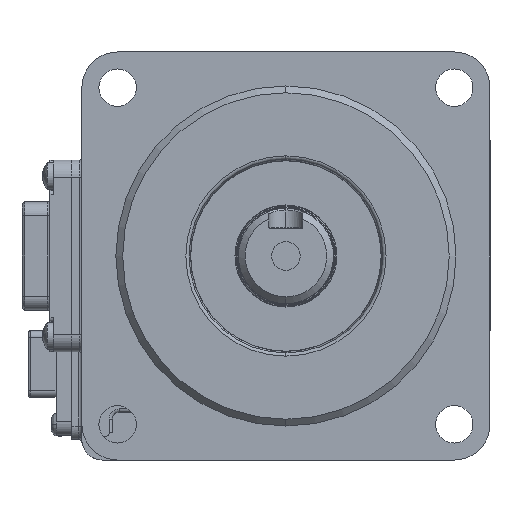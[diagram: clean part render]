
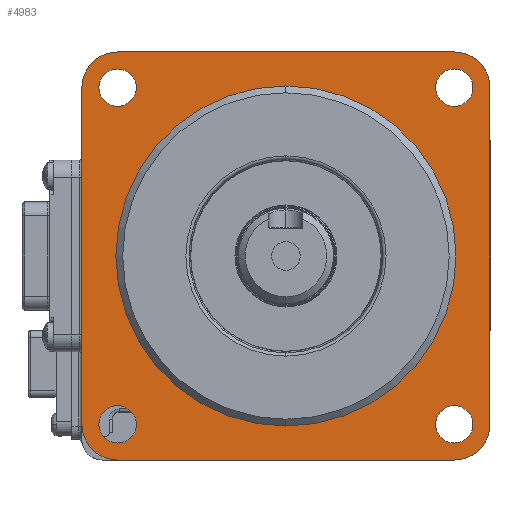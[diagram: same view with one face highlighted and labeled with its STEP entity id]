
A CAD part, left-side view. The second image highlights one B-rep face of the part: STEP entity #4983.
In plain terms, the highlighted planar face has unit normal (-1, 0, 0).
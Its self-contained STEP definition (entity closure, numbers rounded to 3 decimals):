
#1535 = EDGE_CURVE('',#1536,#1538,#1540,.T.);
#1536 = VERTEX_POINT('',#1537);
#1537 = CARTESIAN_POINT('',(-42.062,8.035,115.4));
#1538 = VERTEX_POINT('',#1539);
#1539 = CARTESIAN_POINT('',(-42.062,8.035,65.4));
#1540 = CIRCLE('',#1541,25.);
#1541 = AXIS2_PLACEMENT_3D('',#1542,#1543,#1544);
#1542 = CARTESIAN_POINT('',(-42.062,8.035,90.4));
#1543 = DIRECTION('',(-1.,0.,0.));
#1544 = DIRECTION('',(0.,0.,1.));
#1570 = VERTEX_POINT('',#1571);
#1571 = CARTESIAN_POINT('',(-42.062,-16.714,
    117.899));
#1577 = EDGE_CURVE('',#1578,#1570,#1580,.T.);
#1578 = VERTEX_POINT('',#1579);
#1579 = CARTESIAN_POINT('',(-42.062,-16.714,
    112.399));
#1580 = CIRCLE('',#1581,2.75);
#1581 = AXIS2_PLACEMENT_3D('',#1582,#1583,#1584);
#1582 = CARTESIAN_POINT('',(-42.062,-16.714,
    115.149));
#1583 = DIRECTION('',(-1.,0.,0.));
#1584 = DIRECTION('',(0.,1.,0.));
#1612 = VERTEX_POINT('',#1613);
#1613 = CARTESIAN_POINT('',(-42.062,32.783,
    68.401));
#1619 = EDGE_CURVE('',#1620,#1612,#1622,.T.);
#1620 = VERTEX_POINT('',#1621);
#1621 = CARTESIAN_POINT('',(-42.062,32.783,
    62.901));
#1622 = CIRCLE('',#1623,2.75);
#1623 = AXIS2_PLACEMENT_3D('',#1624,#1625,#1626);
#1624 = CARTESIAN_POINT('',(-42.062,32.783,
    65.651));
#1625 = DIRECTION('',(-1.,0.,0.));
#1626 = DIRECTION('',(-0.,-1.,0.));
#1654 = VERTEX_POINT('',#1655);
#1655 = CARTESIAN_POINT('',(-42.062,32.783,
    117.899));
#1661 = EDGE_CURVE('',#1662,#1654,#1664,.T.);
#1662 = VERTEX_POINT('',#1663);
#1663 = CARTESIAN_POINT('',(-42.062,32.783,
    112.399));
#1664 = CIRCLE('',#1665,2.75);
#1665 = AXIS2_PLACEMENT_3D('',#1666,#1667,#1668);
#1666 = CARTESIAN_POINT('',(-42.062,32.783,
    115.149));
#1667 = DIRECTION('',(-1.,0.,0.));
#1668 = DIRECTION('',(0.,0.,-1.));
#1696 = VERTEX_POINT('',#1697);
#1697 = CARTESIAN_POINT('',(-42.062,-16.714,
    68.401));
#1703 = EDGE_CURVE('',#1704,#1696,#1706,.T.);
#1704 = VERTEX_POINT('',#1705);
#1705 = CARTESIAN_POINT('',(-42.062,-16.714,
    62.901));
#1706 = CIRCLE('',#1707,2.75);
#1707 = AXIS2_PLACEMENT_3D('',#1708,#1709,#1710);
#1708 = CARTESIAN_POINT('',(-42.062,-16.714,
    65.651));
#1709 = DIRECTION('',(-1.,0.,0.));
#1710 = DIRECTION('',(0.,0.,1.));
#2136 = EDGE_CURVE('',#1696,#1704,#2137,.T.);
#2137 = CIRCLE('',#2138,2.75);
#2138 = AXIS2_PLACEMENT_3D('',#2139,#2140,#2141);
#2139 = CARTESIAN_POINT('',(-42.062,-16.714,
    65.651));
#2140 = DIRECTION('',(-1.,0.,0.));
#2141 = DIRECTION('',(0.,0.,1.));
#2370 = VERTEX_POINT('',#2371);
#2371 = CARTESIAN_POINT('',(-42.062,32.785,120.4));
#2379 = VERTEX_POINT('',#2380);
#2380 = CARTESIAN_POINT('',(-42.062,38.035,115.15));
#2386 = EDGE_CURVE('',#2370,#2379,#2387,.T.);
#2387 = CIRCLE('',#2388,5.25);
#2388 = AXIS2_PLACEMENT_3D('',#2389,#2390,#2391);
#2389 = CARTESIAN_POINT('',(-42.062,32.785,115.15));
#2390 = DIRECTION('',(-1.,0.,0.));
#2391 = DIRECTION('',(0.,0.,1.));
#2825 = VERTEX_POINT('',#2826);
#2826 = CARTESIAN_POINT('',(-42.062,-21.965,115.15));
#2834 = VERTEX_POINT('',#2835);
#2835 = CARTESIAN_POINT('',(-42.062,-16.715,120.4));
#2841 = EDGE_CURVE('',#2825,#2834,#2842,.T.);
#2842 = CIRCLE('',#2843,5.25);
#2843 = AXIS2_PLACEMENT_3D('',#2844,#2845,#2846);
#2844 = CARTESIAN_POINT('',(-42.062,-16.715,115.15));
#2845 = DIRECTION('',(-1.,0.,0.));
#2846 = DIRECTION('',(0.,0.,1.));
#2873 = EDGE_CURVE('',#2834,#2370,#2874,.T.);
#2874 = LINE('',#2875,#2876);
#2875 = CARTESIAN_POINT('',(-42.062,38.035,120.4));
#2876 = VECTOR('',#2877,1.);
#2877 = DIRECTION('',(0.,1.,0.));
#3060 = EDGE_CURVE('',#1654,#1662,#3061,.T.);
#3061 = CIRCLE('',#3062,2.75);
#3062 = AXIS2_PLACEMENT_3D('',#3063,#3064,#3065);
#3063 = CARTESIAN_POINT('',(-42.062,32.783,
    115.149));
#3064 = DIRECTION('',(-1.,0.,0.));
#3065 = DIRECTION('',(0.,0.,-1.));
#3776 = EDGE_CURVE('',#1612,#1620,#3777,.T.);
#3777 = CIRCLE('',#3778,2.75);
#3778 = AXIS2_PLACEMENT_3D('',#3779,#3780,#3781);
#3779 = CARTESIAN_POINT('',(-42.062,32.783,
    65.651));
#3780 = DIRECTION('',(-1.,0.,0.));
#3781 = DIRECTION('',(-0.,-1.,0.));
#4654 = VERTEX_POINT('',#4655);
#4655 = CARTESIAN_POINT('',(-42.062,38.035,65.65));
#4661 = EDGE_CURVE('',#2379,#4654,#4662,.T.);
#4662 = LINE('',#4663,#4664);
#4663 = CARTESIAN_POINT('',(-42.062,38.035,120.4));
#4664 = VECTOR('',#4665,1.);
#4665 = DIRECTION('',(0.,0.,-1.));
#4682 = VERTEX_POINT('',#4683);
#4683 = CARTESIAN_POINT('',(-42.062,32.785,60.4));
#4689 = EDGE_CURVE('',#4654,#4682,#4690,.T.);
#4690 = CIRCLE('',#4691,5.25);
#4691 = AXIS2_PLACEMENT_3D('',#4692,#4693,#4694);
#4692 = CARTESIAN_POINT('',(-42.062,32.785,65.65));
#4693 = DIRECTION('',(-1.,0.,0.));
#4694 = DIRECTION('',(0.,0.,1.));
#4711 = VERTEX_POINT('',#4712);
#4712 = CARTESIAN_POINT('',(-42.062,-16.715,60.4));
#4718 = EDGE_CURVE('',#4682,#4711,#4719,.T.);
#4719 = LINE('',#4720,#4721);
#4720 = CARTESIAN_POINT('',(-42.062,38.035,60.4));
#4721 = VECTOR('',#4722,1.);
#4722 = DIRECTION('',(0.,-1.,0.));
#4735 = VERTEX_POINT('',#4736);
#4736 = CARTESIAN_POINT('',(-42.062,-21.965,65.65));
#4742 = EDGE_CURVE('',#4711,#4735,#4743,.T.);
#4743 = CIRCLE('',#4744,5.25);
#4744 = AXIS2_PLACEMENT_3D('',#4745,#4746,#4747);
#4745 = CARTESIAN_POINT('',(-42.062,-16.715,65.65));
#4746 = DIRECTION('',(-1.,0.,0.));
#4747 = DIRECTION('',(0.,0.,1.));
#4769 = EDGE_CURVE('',#4735,#2825,#4770,.T.);
#4770 = LINE('',#4771,#4772);
#4771 = CARTESIAN_POINT('',(-42.062,-21.965,120.4));
#4772 = VECTOR('',#4773,1.);
#4773 = DIRECTION('',(0.,0.,1.));
#4969 = EDGE_CURVE('',#1570,#1578,#4970,.T.);
#4970 = CIRCLE('',#4971,2.75);
#4971 = AXIS2_PLACEMENT_3D('',#4972,#4973,#4974);
#4972 = CARTESIAN_POINT('',(-42.062,-16.714,
    115.149));
#4973 = DIRECTION('',(-1.,0.,0.));
#4974 = DIRECTION('',(0.,1.,0.));
#4983 = ADVANCED_FACE('',(#4984,#4988,#4992,#4996,#5000,#5010),#5020,.T.
  );
#4984 = FACE_BOUND('',#4985,.T.);
#4985 = EDGE_LOOP('',(#4986,#4987));
#4986 = ORIENTED_EDGE('',*,*,#4969,.F.);
#4987 = ORIENTED_EDGE('',*,*,#1577,.F.);
#4988 = FACE_BOUND('',#4989,.T.);
#4989 = EDGE_LOOP('',(#4990,#4991));
#4990 = ORIENTED_EDGE('',*,*,#3060,.F.);
#4991 = ORIENTED_EDGE('',*,*,#1661,.F.);
#4992 = FACE_BOUND('',#4993,.T.);
#4993 = EDGE_LOOP('',(#4994,#4995));
#4994 = ORIENTED_EDGE('',*,*,#3776,.F.);
#4995 = ORIENTED_EDGE('',*,*,#1619,.F.);
#4996 = FACE_BOUND('',#4997,.T.);
#4997 = EDGE_LOOP('',(#4998,#4999));
#4998 = ORIENTED_EDGE('',*,*,#2136,.F.);
#4999 = ORIENTED_EDGE('',*,*,#1703,.F.);
#5000 = FACE_BOUND('',#5001,.T.);
#5001 = EDGE_LOOP('',(#5002,#5003));
#5002 = ORIENTED_EDGE('',*,*,#1535,.F.);
#5003 = ORIENTED_EDGE('',*,*,#5004,.F.);
#5004 = EDGE_CURVE('',#1538,#1536,#5005,.T.);
#5005 = CIRCLE('',#5006,25.);
#5006 = AXIS2_PLACEMENT_3D('',#5007,#5008,#5009);
#5007 = CARTESIAN_POINT('',(-42.062,8.035,90.4));
#5008 = DIRECTION('',(-1.,0.,0.));
#5009 = DIRECTION('',(0.,0.,1.));
#5010 = FACE_BOUND('',#5011,.T.);
#5011 = EDGE_LOOP('',(#5012,#5013,#5014,#5015,#5016,#5017,#5018,#5019));
#5012 = ORIENTED_EDGE('',*,*,#4661,.T.);
#5013 = ORIENTED_EDGE('',*,*,#4689,.T.);
#5014 = ORIENTED_EDGE('',*,*,#4718,.T.);
#5015 = ORIENTED_EDGE('',*,*,#4742,.T.);
#5016 = ORIENTED_EDGE('',*,*,#4769,.T.);
#5017 = ORIENTED_EDGE('',*,*,#2841,.T.);
#5018 = ORIENTED_EDGE('',*,*,#2873,.T.);
#5019 = ORIENTED_EDGE('',*,*,#2386,.T.);
#5020 = PLANE('',#5021);
#5021 = AXIS2_PLACEMENT_3D('',#5022,#5023,#5024);
#5022 = CARTESIAN_POINT('',(-42.062,8.035,90.4));
#5023 = DIRECTION('',(-1.,0.,0.));
#5024 = DIRECTION('',(0.,0.,1.));
